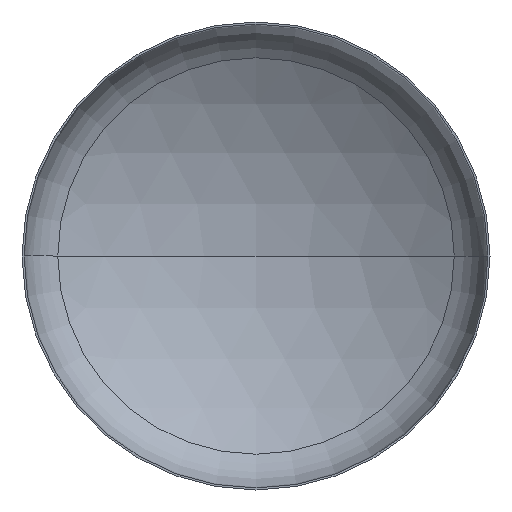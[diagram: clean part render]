
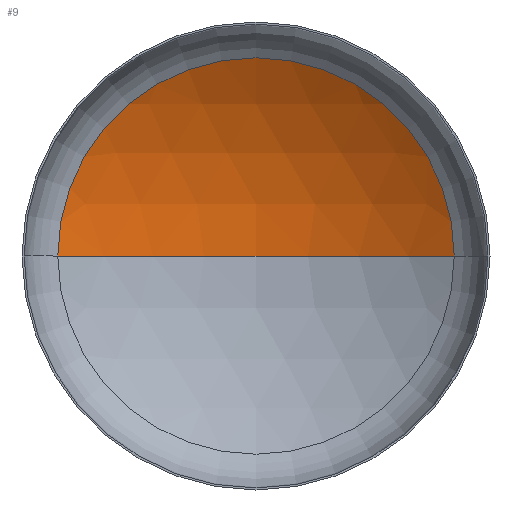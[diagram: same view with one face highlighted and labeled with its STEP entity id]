
A CAD part, front view. The second image highlights one B-rep face of the part: STEP entity #9.
In plain terms, the highlighted spherical face has radius 2560 mm.
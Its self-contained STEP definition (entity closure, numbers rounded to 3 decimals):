
#3 = DIRECTION ( 'NONE',  ( 0., -1., 0. ) ) ;
#7 = DIRECTION ( 'NONE',  ( 1., 0., 0. ) ) ;
#9 = ADVANCED_FACE ( 'NONE', ( #214 ), #96, .F. ) ;
#10 = DIRECTION ( 'NONE',  ( 0., 0., -1. ) ) ;
#12 = CARTESIAN_POINT ( 'NONE',  ( 0., -1711.042, 0. ) ) ;
#15 = EDGE_LOOP ( 'NONE', ( #112, #81, #408 ) ) ;
#32 = AXIS2_PLACEMENT_3D ( 'NONE', #225, #245, #7 ) ;
#34 = AXIS2_PLACEMENT_3D ( 'NONE', #12, #10, #265 ) ;
#37 = VERTEX_POINT ( 'NONE', #367 ) ;
#42 = CIRCLE ( 'NONE', #34, 2560. ) ;
#43 = AXIS2_PLACEMENT_3D ( 'NONE', #158, #3, #108 ) ;
#69 = VERTEX_POINT ( 'NONE', #227 ) ;
#75 = AXIS2_PLACEMENT_3D ( 'NONE', #240, #276, #270 ) ;
#81 = ORIENTED_EDGE ( 'NONE', *, *, #117, .T. ) ;
#96 = SPHERICAL_SURFACE ( 'NONE', #75, 2560. ) ;
#108 = DIRECTION ( 'NONE',  ( 1., 0., 0. ) ) ;
#112 = ORIENTED_EDGE ( 'NONE', *, *, #118, .F. ) ;
#113 = EDGE_CURVE ( 'NONE', #37, #69, #242, .T. ) ;
#117 = EDGE_CURVE ( 'NONE', #154, #37, #42, .T. ) ;
#118 = EDGE_CURVE ( 'NONE', #154, #69, #371, .T. ) ;
#154 = VERTEX_POINT ( 'NONE', #194 ) ;
#158 = CARTESIAN_POINT ( 'NONE',  ( 0., 460.681, 0. ) ) ;
#194 = CARTESIAN_POINT ( 'NONE',  ( 0., 848.958, 0. ) ) ;
#214 = FACE_OUTER_BOUND ( 'NONE', #15, .T. ) ;
#225 = CARTESIAN_POINT ( 'NONE',  ( 0., -1711.042, 0. ) ) ;
#227 = CARTESIAN_POINT ( 'NONE',  ( -1355.44, 460.681, 0. ) ) ;
#240 = CARTESIAN_POINT ( 'NONE',  ( 0., -1711.042, 0. ) ) ;
#242 = CIRCLE ( 'NONE', #43, 1355.44 ) ;
#245 = DIRECTION ( 'NONE',  ( 0., 0., 1. ) ) ;
#265 = DIRECTION ( 'NONE',  ( -1., 0., 0. ) ) ;
#270 = DIRECTION ( 'NONE',  ( -1., 0., 0. ) ) ;
#276 = DIRECTION ( 'NONE',  ( 0., 0., -1. ) ) ;
#367 = CARTESIAN_POINT ( 'NONE',  ( 1355.44, 460.681, 0. ) ) ;
#371 = CIRCLE ( 'NONE', #32, 2560. ) ;
#408 = ORIENTED_EDGE ( 'NONE', *, *, #113, .T. ) ;
